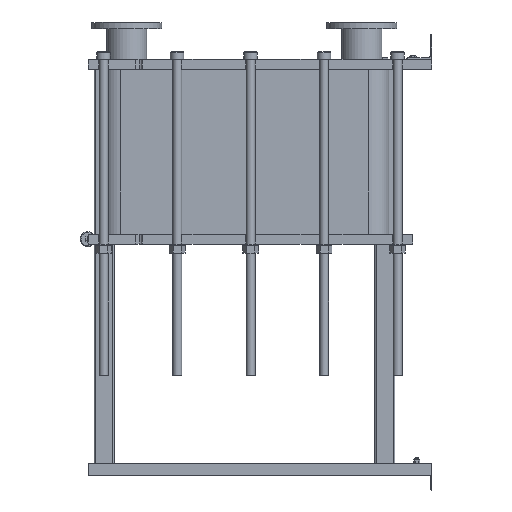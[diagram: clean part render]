
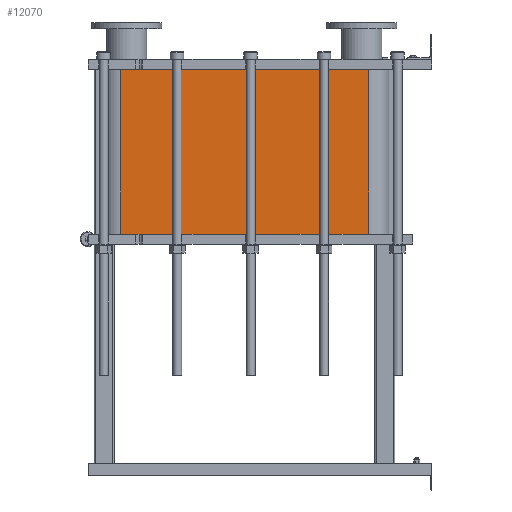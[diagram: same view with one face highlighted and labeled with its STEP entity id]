
A CAD part, left-side view. The second image highlights one B-rep face of the part: STEP entity #12070.
In plain terms, the highlighted planar face has unit normal (-1, 0, 0).
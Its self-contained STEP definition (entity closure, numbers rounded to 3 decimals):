
#1064=LINE('',#21140,#2164);
#1065=LINE('',#21144,#2165);
#1066=LINE('',#21146,#2166);
#1067=LINE('',#21147,#2167);
#2164=VECTOR('',#15790,10.);
#2165=VECTOR('',#15795,10.);
#2166=VECTOR('',#15796,10.);
#2167=VECTOR('',#15797,10.);
#3304=FACE_OUTER_BOUND('',#4091,.T.);
#4091=EDGE_LOOP('',(#9793,#9794,#9795,#9796));
#5677=VERTEX_POINT('',#21137);
#5678=VERTEX_POINT('',#21139);
#5679=VERTEX_POINT('',#21143);
#5680=VERTEX_POINT('',#21145);
#7118=EDGE_CURVE('',#5678,#5677,#1064,.T.);
#7120=EDGE_CURVE('',#5677,#5679,#1065,.T.);
#7121=EDGE_CURVE('',#5680,#5679,#1066,.T.);
#7122=EDGE_CURVE('',#5680,#5678,#1067,.T.);
#9793=ORIENTED_EDGE('',*,*,#7120,.T.);
#9794=ORIENTED_EDGE('',*,*,#7121,.F.);
#9795=ORIENTED_EDGE('',*,*,#7122,.T.);
#9796=ORIENTED_EDGE('',*,*,#7118,.T.);
#11441=PLANE('',#13191);
#12070=ADVANCED_FACE('',(#3304),#11441,.T.);
#13191=AXIS2_PLACEMENT_3D('',#21142,#15793,#15794);
#15790=DIRECTION('',(0.,0.,-1.));
#15793=DIRECTION('center_axis',(-1.,0.,0.));
#15794=DIRECTION('ref_axis',(0.,1.,0.));
#15795=DIRECTION('',(0.,-1.,0.));
#15796=DIRECTION('',(0.,0.,-1.));
#15797=DIRECTION('',(0.,1.,0.));
#21137=CARTESIAN_POINT('',(-248.152,1243.818,-658.95));
#21139=CARTESIAN_POINT('',(-248.152,1243.818,0.));
#21140=CARTESIAN_POINT('',(-248.152,1243.818,0.));
#21142=CARTESIAN_POINT('Origin',(-248.152,251.818,0.));
#21143=CARTESIAN_POINT('',(-248.152,251.818,-658.95));
#21144=CARTESIAN_POINT('',(-248.152,499.818,-658.95));
#21145=CARTESIAN_POINT('',(-248.152,251.818,0.));
#21146=CARTESIAN_POINT('',(-248.152,251.818,0.));
#21147=CARTESIAN_POINT('',(-248.152,251.818,0.));
